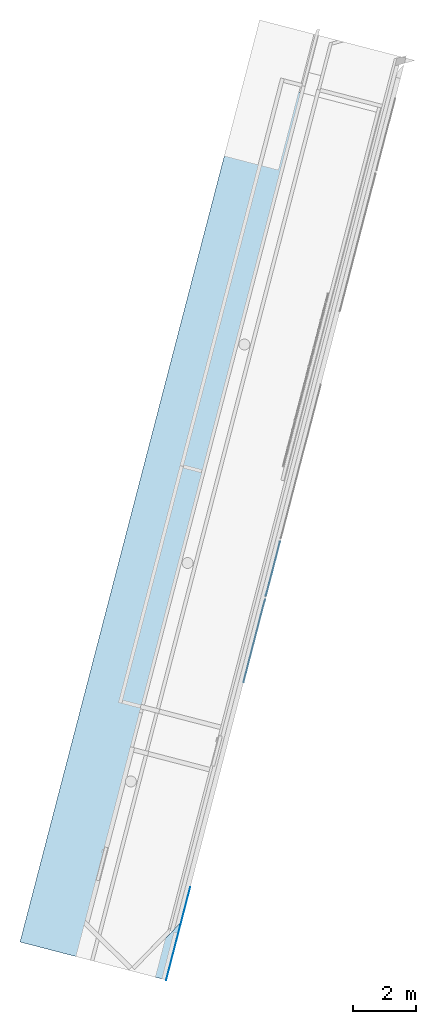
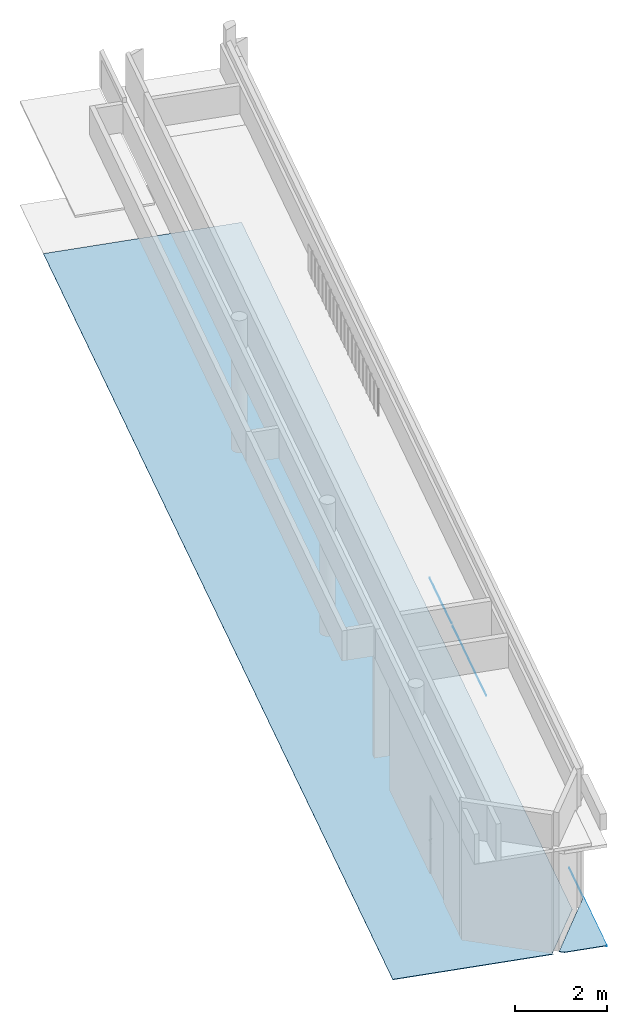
# One storey, part 4 of 9: 5 slabs.
"""IFC2X3 building model written with IfcOpenShell, lengths in millimetres."""

from ifc_helpers import new_model, entity, si_unit, converted_unit, derived_unit, direction, frame, origin, origin_with_axes, place, context, subcontext, project, spatial, faceted_brep, material, layer, layer_set, type_object, element, save


model = new_model("IFC2X3")

# Units and contexts
plan_context = context("Plan", 3, precision=1e-05, world=origin_with_axes())
model_context = context("Model", 3, precision=0.01, world=origin(), true_north=direction((6.12323399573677e-17, 1.0)))
body_context = subcontext(model_context, "Body", "Model", "MODEL_VIEW")
ifc_project = project(units=[converted_unit("PLANEANGLEUNIT", "DEGREE", entity("IfcPositiveLengthMeasure", 0.0174532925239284), si_unit("PLANEANGLEUNIT", "RADIAN"), dimensions=[0, 0, 0, 0, 0, 0, 0]), si_unit("AREAUNIT", "SQUARE_METRE"), si_unit("LENGTHUNIT", "METRE", prefix="MILLI"), si_unit("MASSUNIT", "GRAM", prefix="KILO"), si_unit("POWERUNIT", "WATT"), si_unit("PRESSUREUNIT", "PASCAL", prefix="KILO"), si_unit("FORCEUNIT", "NEWTON", prefix="KILO"), si_unit("ELECTRICVOLTAGEUNIT", "VOLT"), si_unit("ELECTRICCURRENTUNIT", "AMPERE"), si_unit("THERMODYNAMICTEMPERATUREUNIT", "DEGREE_CELSIUS"), si_unit("TIMEUNIT", "SECOND"), si_unit("VOLUMEUNIT", "CUBIC_METRE"), derived_unit("LINEARVELOCITYUNIT", [(si_unit("LENGTHUNIT", "METRE"), 1), (si_unit("TIMEUNIT", "SECOND"), -1)]), derived_unit("VOLUMETRICFLOWRATEUNIT", [(si_unit("VOLUMEUNIT", "CUBIC_METRE"), 1), (si_unit("TIMEUNIT", "SECOND"), -1)]), derived_unit("THERMALTRANSMITTANCEUNIT", [(si_unit("POWERUNIT", "WATT"), 1), (si_unit("THERMODYNAMICTEMPERATUREUNIT", "KELVIN"), -1), (si_unit("AREAUNIT", "SQUARE_METRE"), -1)]), derived_unit("SOUNDPRESSUREUNIT", [(si_unit("PRESSUREUNIT", "PASCAL"), 1)])], contexts=[model_context, plan_context])

# Site, building, storey
site_placement = place(None, frame((0.0, -2.21771188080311e-09, 0.0), z_axis=(0.0, 0.0, 1.0), x_axis=(0.266093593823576, -0.963947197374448, 0.0)))
site = spatial("IfcSite", under=ifc_project, at=site_placement, Name="ENZV", CompositionType="ELEMENT")
building_placement = place(site_placement, origin_with_axes())
building = spatial("IfcBuilding", under=site, at=building_placement, Name="ZV001", CompositionType="ELEMENT")
storey_placement = place(building_placement, frame((0.0, 0.0, 5100.0), z_axis=(0.0, 0.0, 1.0), x_axis=(1.0, 0.0, 0.0)))
storey = spatial("IfcBuildingStorey", under=building, at=storey_placement, Name="H01", CompositionType="ELEMENT", Elevation=5100.0)

# Slabs
ifc_material_1 = material(Name="Gulv - Linoleum")
ifc_layer_1 = layer(ifc_material_1, 2.5)
ifc_material_2 = material(Name="Avretting")
ifc_layer_2 = layer(ifc_material_2, 12.5)
ifc_layer_set_1 = layer_set([ifc_layer_1, ifc_layer_2], Name="Floor:ENZV_G01_Banebelegg linoleum")
slab_type_1 = type_object("IfcSlabType", Name="Floor:ENZV_G01_Banebelegg linoleum", PredefinedType="FLOOR", material=ifc_layer_set_1)
slab_1_placement = place(storey_placement, frame((-180450.441641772, 377861.097970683, -15.0), z_axis=(0.0, 0.0, 1.0), x_axis=(1.0, 0.0, 0.0)))
element("IfcSlab", 1, at=slab_1_placement, inside=storey, type_object=slab_type_1, Name="Floor:ENZV_G01_Banebelegg linoleum:4", ObjectType="Floor:ENZV_G01_Banebelegg linoleum", PredefinedType="FLOOR", context=body_context, shape_type="Brep", body=[
    faceted_brep([(15043.5208243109, 6605.11105407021, 15.0), (15043.5208243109, 6605.11105407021, 1.61648472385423e-13), (15043.2749899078, 6604.68525638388, 1.61648472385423e-13), (15043.2749899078, 6604.68525638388, 15.0), (13501.714931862, 7494.66167361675, 1.61648472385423e-13), (13501.714931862, 7494.66167361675, 15.0), (13501.9523841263, 7495.07297319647, 1.61648472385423e-13), (13501.9523841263, 7495.07297319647, 15.0)], [[[0, 1, 2, 3]], [[3, 2, 4, 5]], [[6, 7, 5, 4]], [[7, 0, 3, 5]], [[1, 6, 4, 2]], [[7, 6, 1, 0]]], orient=[[False], [False], [False], [False], [False], [False]]),
])
slab_2_placement = place(storey_placement, frame((-180450.441641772, 377861.097970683, -15.0), z_axis=(0.0, 0.0, 1.0), x_axis=(1.0, 0.0, 0.0)))
element("IfcSlab", 2, at=slab_2_placement, inside=storey, type_object=slab_type_1, Name="Floor:ENZV_G01_Banebelegg linoleum:15", ObjectType="Floor:ENZV_G01_Banebelegg linoleum", PredefinedType="FLOOR", context=body_context, shape_type="Brep", body=[
    faceted_brep([(26005.5089576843, 275.636675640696, 15.0), (26005.5089576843, 275.636675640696, 1.61648472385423e-13), (23364.4907951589, 1800.42918621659, 1.61648472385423e-13), (23364.4907951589, 1800.42918621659, 15.0), (23364.8839170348, 1801.11009329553, 1.61648472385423e-13), (23364.8839170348, 1801.11009329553, 15.0), (26005.9488028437, 276.398563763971, 15.0), (26005.9488028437, 276.398563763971, 1.13686837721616e-13)], [[[0, 1, 2, 3]], [[4, 5, 3, 2]], [[5, 6, 0, 3]], [[1, 7, 4, 2]], [[7, 1, 0, 6]], [[6, 5, 4, 7]]], orient=[[False], [False], [False], [False], [False], [False]]),
])
slab_3_placement = place(storey_placement, origin_with_axes())
element("IfcSlab", 3, at=slab_3_placement, inside=storey, type_object=slab_type_1, Name="Floor:ENZV_G01_Banebelegg linoleum", ObjectType="Floor:ENZV_G01_Banebelegg linoleum", PredefinedType="FLOOR", context=body_context, shape_type="Brep", body=[
    faceted_brep([(-156096.007406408, 379090.931384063, -14.9999999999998), (-156096.007406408, 379090.931384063, 0.0), (-155024.066935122, 377251.097964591, 0.0), (-155024.066935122, 377251.097964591, -14.9999999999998), (-154922.298706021, 377309.85387984, 0.0), (-154922.298706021, 377309.85387984, -14.9999999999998), (-154444.492838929, 378137.496534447, -1.13686837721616e-13), (-154444.492838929, 378137.496534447, -14.9999999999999)], [[[0, 1, 2, 3]], [[4, 5, 3, 2]], [[1, 6, 4, 2]], [[5, 7, 0, 3]], [[7, 5, 4, 6]], [[6, 1, 0, 7]]], orient=[[False], [False], [False], [False], [False], [False]]),
])
ifc_material_3 = material(Name="Gulv - Vinyl")
ifc_layer_3 = layer(ifc_material_3, 2.5)
ifc_layer_4 = layer(ifc_material_2, 12.5)
ifc_layer_set_2 = layer_set([ifc_layer_3, ifc_layer_4], Name="Floor:ENZV_G03_Banebelegg vinyl")
slab_type_2 = type_object("IfcSlabType", Name="Floor:ENZV_G03_Banebelegg vinyl", PredefinedType="FLOOR", material=ifc_layer_set_2)
slab_4_placement = place(storey_placement, frame((-177452.757350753, 383043.443586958, -15.0), z_axis=(0.0, 0.0, 1.0), x_axis=(1.0, 0.0, 0.0)))
element("IfcSlab", 4, at=slab_4_placement, inside=storey, type_object=slab_type_2, Name="Floor:ENZV_G03_Banebelegg vinyl:2", ObjectType="Floor:ENZV_G03_Banebelegg vinyl", PredefinedType="FLOOR", context=body_context, shape_type="Brep", body=[
    faceted_brep([(14509.4447215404, 0.5013241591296, 15.0), (14509.4447215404, 0.5013241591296, 1.61648472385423e-13), (14509.1552801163, 0.0, 1.61648472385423e-13), (14509.1552801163, 0.0, 15.0), (12149.5136916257, 1362.33967370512, 1.61648472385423e-13), (12149.5136916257, 1362.33967370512, 15.0), (12149.7613666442, 1362.7686567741, 1.61648472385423e-13), (12149.7613666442, 1362.7686567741, 15.0)], [[[0, 1, 2, 3]], [[3, 2, 4, 5]], [[6, 7, 5, 4]], [[7, 0, 3, 5]], [[1, 6, 4, 2]], [[7, 6, 1, 0]]], orient=[[False], [False], [False], [False], [False], [False]]),
])
ifc_material_4 = material(Name="Fliser 600x600mm mørk grå")
ifc_layer_5 = layer(ifc_material_4, 15.0)
ifc_layer_set_3 = layer_set([ifc_layer_5], Name="Floor:ENZV_G04_Flis mørk grå 15mm")
slab_type_3 = type_object("IfcSlabType", Name="Floor:ENZV_G04_Flis mørk grå 15mm", PredefinedType="FLOOR", material=ifc_layer_set_3)
slab_5_placement = place(storey_placement, origin_with_axes())
element("IfcSlab", 5, at=slab_5_placement, inside=storey, type_object=slab_type_3, Name="Floor:ENZV_G04_Flis mørk grå 15mm", ObjectType="Floor:ENZV_G04_Flis mørk grå 15mm", PredefinedType="FLOOR", context=body_context, shape_type="Brep", body=[
    faceted_brep([(-155042.285944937, 377102.015165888, -14.9999999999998), (-155042.285944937, 377102.015165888, 0.0), (-155073.406441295, 377084.047738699, 0.0), (-155073.406441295, 377084.047738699, -14.9999999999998), (-181512.891235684, 388202.812332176, 0.0), (-181512.891235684, 388202.812332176, -14.9999999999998), (-179282.658631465, 392065.688608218, -14.9999999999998), (-179282.658631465, 392065.688608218, 0.0), (-155944.088393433, 378592.113113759, -14.9999999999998), (-155944.088393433, 378592.113113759, 0.0), (-156852.618293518, 373966.205470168, -1.13686837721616e-13), (-156852.618293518, 373966.205470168, -14.9999999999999)], [[[0, 1, 2, 3]], [[4, 5, 6, 7]], [[7, 6, 8, 9]], [[9, 8, 3, 2]], [[1, 10, 4, 7, 9, 2]], [[5, 11, 0, 3, 8, 6]], [[10, 1, 0, 11]], [[11, 5, 4, 10]]], orient=[[False], [False], [False], [False], [False], [False], [False], [False]]),
])

save(model, "model.ifc")
